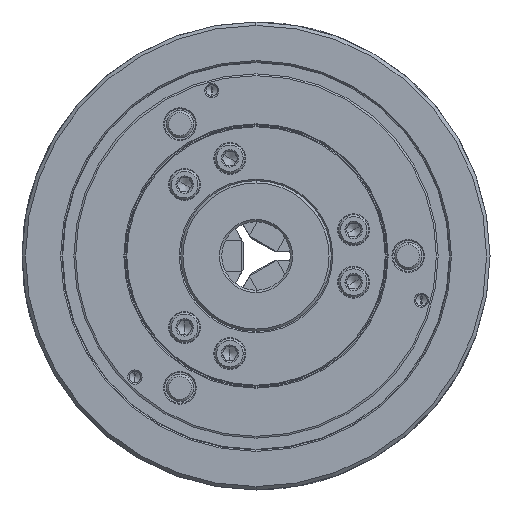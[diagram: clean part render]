
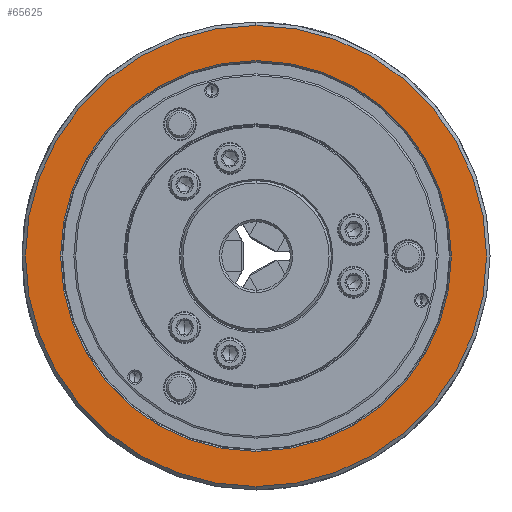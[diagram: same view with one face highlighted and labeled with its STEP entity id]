
A CAD part, left-side view. The second image highlights one B-rep face of the part: STEP entity #65625.
In plain terms, the highlighted planar face has unit normal (-1, 0, 0).
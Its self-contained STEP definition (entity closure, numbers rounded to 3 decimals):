
#2423 = EDGE_CURVE ( 'NONE', #55460, #75520, #90056, .T. ) ;
#5410 = FACE_BOUND ( 'NONE', #61756, .T. ) ;
#6569 = DIRECTION ( 'NONE',  ( 0., 0., -1. ) ) ;
#7017 = DIRECTION ( 'NONE',  ( 1., 0., 0. ) ) ;
#10660 = CIRCLE ( 'NONE', #73096, 101. ) ;
#14510 = CARTESIAN_POINT ( 'NONE',  ( -91., 0., 0. ) ) ;
#14867 = DIRECTION ( 'NONE',  ( 1., 0., 0. ) ) ;
#17352 = VERTEX_POINT ( 'NONE', #68536 ) ;
#23522 = EDGE_CURVE ( 'NONE', #75520, #55460, #53222, .T. ) ;
#24588 = AXIS2_PLACEMENT_3D ( 'NONE', #59396, #51023, #72935 ) ;
#27999 = EDGE_CURVE ( 'NONE', #47986, #17352, #54467, .T. ) ;
#29837 = ORIENTED_EDGE ( 'NONE', *, *, #27999, .F. ) ;
#31869 = ORIENTED_EDGE ( 'NONE', *, *, #2423, .T. ) ;
#32362 = EDGE_LOOP ( 'NONE', ( #29837, #71577 ) ) ;
#37723 = CARTESIAN_POINT ( 'NONE',  ( -91., 0., -101. ) ) ;
#38545 = CARTESIAN_POINT ( 'NONE',  ( -91., 0., 85.6 ) ) ;
#42403 = CARTESIAN_POINT ( 'NONE',  ( -91., 0., 0. ) ) ;
#47679 = EDGE_CURVE ( 'NONE', #17352, #47986, #10660, .T. ) ;
#47797 = PLANE ( 'NONE',  #55803 ) ;
#47986 = VERTEX_POINT ( 'NONE', #37723 ) ;
#48243 = DIRECTION ( 'NONE',  ( -1., 0., 0. ) ) ;
#49414 = DIRECTION ( 'NONE',  ( 1., 0., 0. ) ) ;
#51023 = DIRECTION ( 'NONE',  ( 1., 0., 0. ) ) ;
#53222 = CIRCLE ( 'NONE', #74122, 85.6 ) ;
#54467 = CIRCLE ( 'NONE', #55931, 101. ) ;
#55460 = VERTEX_POINT ( 'NONE', #68261 ) ;
#55803 = AXIS2_PLACEMENT_3D ( 'NONE', #61295, #48243, #76225 ) ;
#55931 = AXIS2_PLACEMENT_3D ( 'NONE', #72613, #14867, #58600 ) ;
#58600 = DIRECTION ( 'NONE',  ( 0., 0., -1. ) ) ;
#59396 = CARTESIAN_POINT ( 'NONE',  ( -91., 0., 0. ) ) ;
#61295 = CARTESIAN_POINT ( 'NONE',  ( -91., 101., 0. ) ) ;
#61756 = EDGE_LOOP ( 'NONE', ( #82010, #31869 ) ) ;
#65625 = ADVANCED_FACE ( 'NONE', ( #5410, #91604 ), #47797, .T. ) ;
#68261 = CARTESIAN_POINT ( 'NONE',  ( -91., 0., -85.6 ) ) ;
#68536 = CARTESIAN_POINT ( 'NONE',  ( -91., 0., 101. ) ) ;
#71577 = ORIENTED_EDGE ( 'NONE', *, *, #47679, .F. ) ;
#72613 = CARTESIAN_POINT ( 'NONE',  ( -91., 0., 0. ) ) ;
#72935 = DIRECTION ( 'NONE',  ( 0., 0., -1. ) ) ;
#73096 = AXIS2_PLACEMENT_3D ( 'NONE', #42403, #7017, #75184 ) ;
#74122 = AXIS2_PLACEMENT_3D ( 'NONE', #14510, #49414, #6569 ) ;
#75184 = DIRECTION ( 'NONE',  ( 0., 0., -1. ) ) ;
#75520 = VERTEX_POINT ( 'NONE', #38545 ) ;
#76225 = DIRECTION ( 'NONE',  ( 0., 0., 1. ) ) ;
#82010 = ORIENTED_EDGE ( 'NONE', *, *, #23522, .T. ) ;
#90056 = CIRCLE ( 'NONE', #24588, 85.6 ) ;
#91604 = FACE_OUTER_BOUND ( 'NONE', #32362, .T. ) ;
